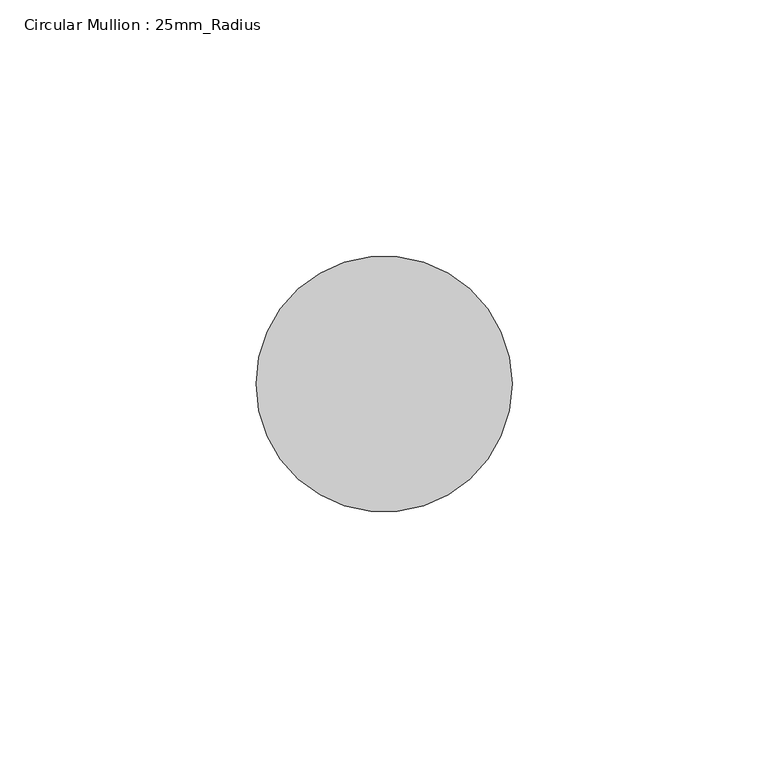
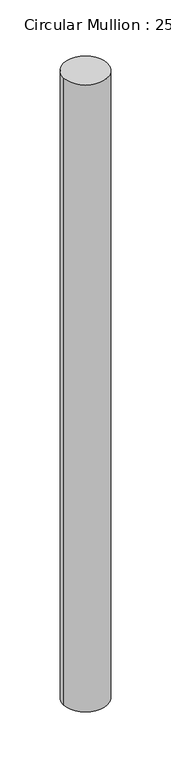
"""IFC4 building model written with IfcOpenShell, lengths in millimetres: member geometry, Circular Mullion : 25mm_Radius."""

from ifc_helpers import new_model, si_unit, point, frame, frame_2d, origin, place, context, project, spatial, circle_curve, trimmed, segment, composite_curve, outline, extrude, source, transform, mapped, element, save


def circular_mullion_25mm_radius_4568ae7f(model_context):
    return source(origin(), model_context, "Body", "SweptSolid", [
        extrude(outline(composite_curve([segment(trimmed(circle_curve(frame_2d((-25.0, 0.0)), 25.0), [point((0.0, 0.0))], [point((-50.0, 0.0))], False, "CARTESIAN"), True, "CONTINUOUS"), segment(trimmed(circle_curve(frame_2d((-25.0, 0.0)), 25.0), [point((-50.0, 0.0))], [point((0.0, 0.0))], False, "CARTESIAN"), True, "CONTINUOUS")], self_intersect=False)), frame((0.0, 0.0, -753.2501979), z_axis=(0.0, 0.0, 1.0), x_axis=(1.0, 0.0, 0.0)), (0.0, 0.0, 1.0), 753.2501979),
    ])


if __name__ == "__main__":
    model = new_model("IFC4")
    model_context = context("Model", 3, world=origin())
    ifc_project = project(units=[si_unit("LENGTHUNIT", "METRE", prefix="MILLI")], contexts=[model_context])
    site = spatial("IfcSite", under=ifc_project)
    building = spatial("IfcBuilding", under=site)
    placement = place(None, origin())
    circular_mullion_25mm_radius_shape = circular_mullion_25mm_radius_4568ae7f(model_context)
    element("IfcMember", 1, ObjectType="Circular Mullion : 25mm_Radius", at=placement, inside=building, context=model_context, shape_type="MappedRepresentation", body=[
        mapped(circular_mullion_25mm_radius_shape, transform((0.0, 0.0, 0.0), x_axis=(1.0, 0.0, 0.0), y_axis=(0.0, 1.0, 0.0), z_axis=(0.0, 0.0, 1.0))),
    ])
    save(model, "model.ifc")
